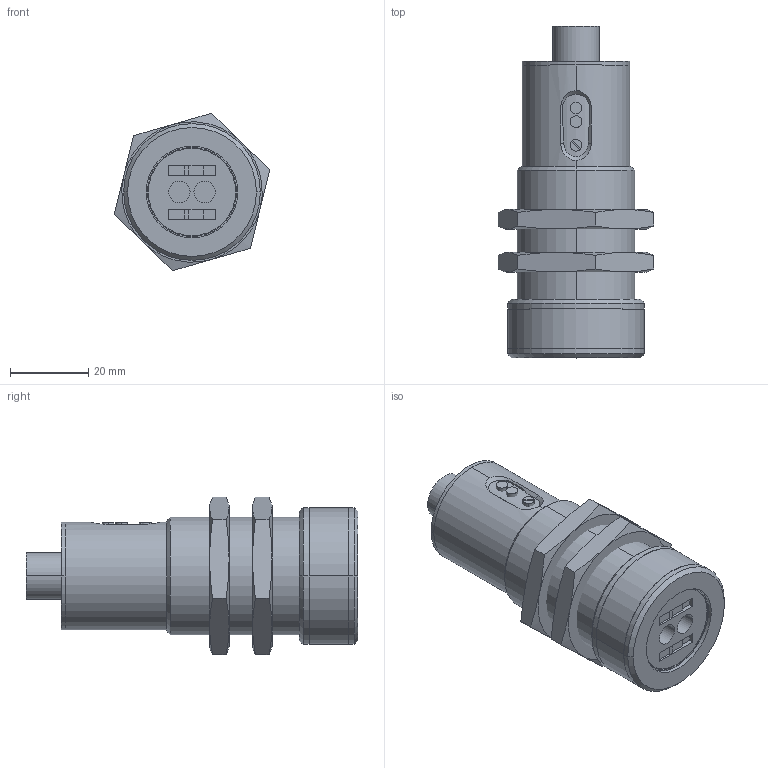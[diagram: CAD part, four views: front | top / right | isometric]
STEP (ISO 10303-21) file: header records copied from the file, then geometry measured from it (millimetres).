
FILE_DESCRIPTION((''),'2;1');
FILE_NAME('15300713_FMS30_34_U.stp','2014-01-16T08:37:51',(''),(''),'Mechanical Desktop 2009','Mechanical Desktop 2009',', , ');
FILE_SCHEMA(('CONFIG_CONTROL_DESIGN'));
Length unit declared in the file: millimetre
Products named in the file (13): 15300713; DISTANZSTÜCK; 03813025; ~~TEIL1; DECKEL; TEIL2; LED; POTI; M30_BEFESTIGUNGSMUTTER; BEF_MUTTER_M30; ~TEIL1; ÜBERWURFMUTTER; SCHALTER
Assembly tree (15 placements, depth 4):
  15300713
    DISTANZSTÜCK
    03813025
      ~~TEIL1
    DECKEL
    TEIL2
    LED  x2
    POTI
    M30_BEFESTIGUNGSMUTTER  x2
      BEF_MUTTER_M30
        ~TEIL1
    ÜBERWURFMUTTER
    SCHALTER  x2
Bounding box: 39.95 x 85 x 40.34 mm (x, y, z)
Volume: 37413 mm3; surface area: 28515.3 mm2
Topology: 12 solids, 12 shells, 178 faces, 392 edges, 248 vertices
Faces by surface type: plane 84, cylinder 56, cone 38
Entity records: 4277 total; most frequent: CARTESIAN_POINT 864, DIRECTION 710, ORIENTED_EDGE 616, EDGE_CURVE 308, AXIS2_PLACEMENT_3D 282, VERTEX_POINT 196, EDGE_LOOP 164, VECTOR 146
